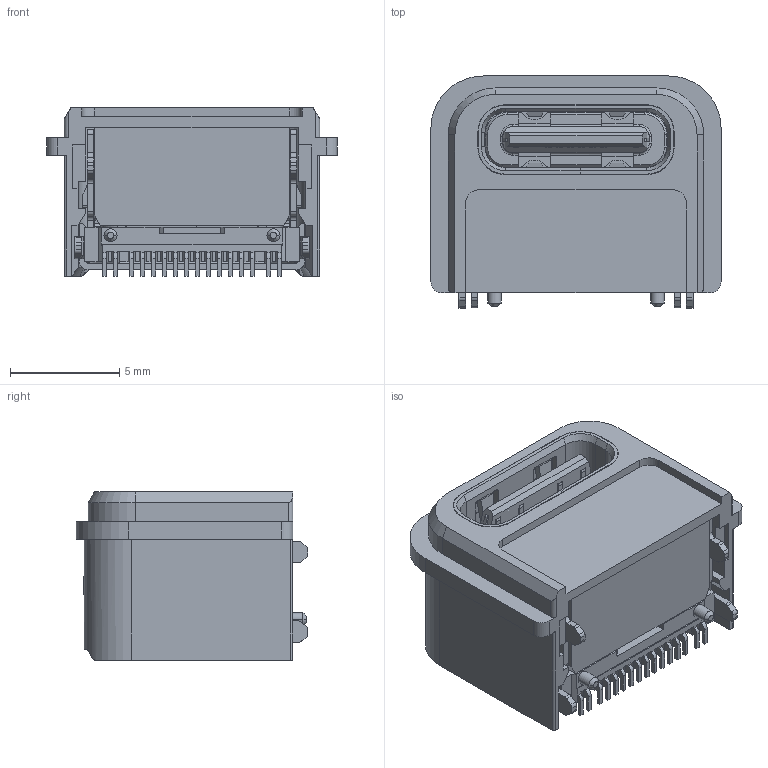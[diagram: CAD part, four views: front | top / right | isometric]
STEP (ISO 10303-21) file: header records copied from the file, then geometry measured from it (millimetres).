
FILE_DESCRIPTION((' '),'2;1');
FILE_NAME( 'U5183-16PN7.0H7.7L.stp', '2026-05-15T15:08:16', (' '), ('--- ---'), ' V2026.1 Dec 31 2025', ' 2026 (c)', ' ');
FILE_SCHEMA(('AP242_MANAGED_MODEL_BASED_3D_ENGINEERING_MIM_LF { 1 0 10303 442 1 1 4 }'));
Length unit declared in the file: millimetre
Products named in the file (1): U5183-16PN7.0H7.7L
Bounding box: 13.27 x 10.61 x 7.7 mm (x, y, z)
Volume: 566.5 mm3; surface area: 1880.4 mm2
Topology: 2 solids, 2 shells, 1455 faces, 4170 edges, 2695 vertices
Faces by surface type: plane 951, cylinder 420, bspline 43, cone 37, torus 4
Entity records: 49824 total; most frequent: CARTESIAN_POINT 12019, ORIENTED_EDGE 8340, DIRECTION 7356, EDGE_CURVE 4170, VECTOR 2860, LINE 2860, VERTEX_POINT 2695, AXIS2_PLACEMENT_3D 2248
